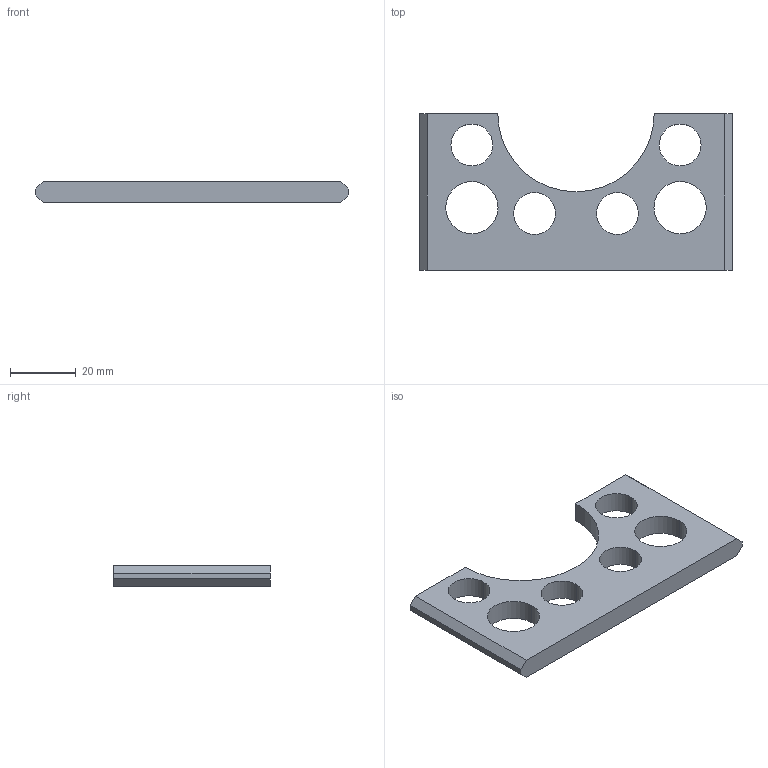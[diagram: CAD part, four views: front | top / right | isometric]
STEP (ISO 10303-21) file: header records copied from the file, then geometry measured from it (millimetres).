
FILE_DESCRIPTION (( 'STEP AP203' ), '1' );
FILE_NAME ('269-18-225.STEP', '2020-03-03T18:22:45', ( '' ), ( '' ), 'SwSTEP 2.0', 'SolidWorks 2017', '' );
FILE_SCHEMA (( 'CONFIG_CONTROL_DESIGN' ));
Length unit declared in the file: inch
Products named in the file (1): 269-18-225
Bounding box: 95 x 47.62 x 6.35 mm (x, y, z)
Volume: 16873.7 mm3; surface area: 8825.6 mm2
Topology: 1 solids, 1 shells, 24 faces, 66 edges, 44 vertices
Faces by surface type: cylinder 13, plane 11
Entity records: 879 total; most frequent: DIRECTION 142, CARTESIAN_POINT 135, ORIENTED_EDGE 132, EDGE_CURVE 66, AXIS2_PLACEMENT_3D 51, VERTEX_POINT 44, VECTOR 40, LINE 40
